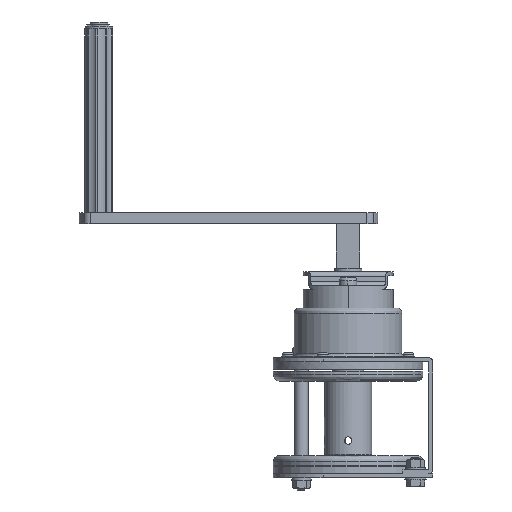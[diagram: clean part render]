
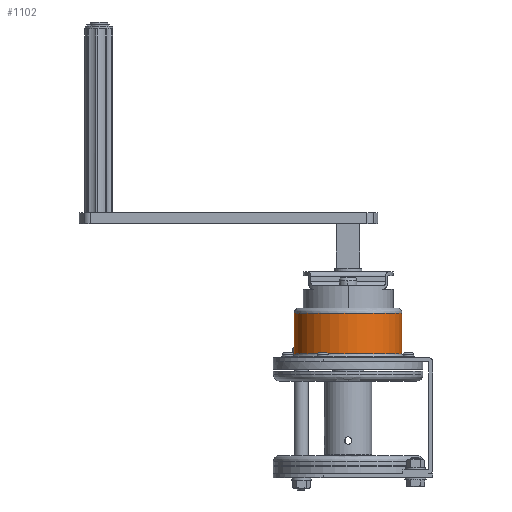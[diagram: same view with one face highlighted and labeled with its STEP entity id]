
A CAD part, left-side view. The second image highlights one B-rep face of the part: STEP entity #1102.
In plain terms, the highlighted cylindrical face has radius 43.2 mm (diameter 86.4 mm), a partial arc.
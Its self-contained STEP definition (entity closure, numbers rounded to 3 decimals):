
#1102=ADVANCED_FACE('',(#11459),#11458,.T.);
#11458=CYLINDRICAL_SURFACE('',#20934,43.2);
#11459=FACE_OUTER_BOUND('',#20935,.T.);
#20931=CARTESIAN_POINT('',(248.495,-52.675,-137.703));
#20932=DIRECTION('',(0.,0.,1.));
#20933=DIRECTION('',(0.,1.,0.));
#20934=AXIS2_PLACEMENT_3D('',#20931,#20932,#20933);
#20935=EDGE_LOOP('',(#28767,#28768,#28769,#28770));
#28767=ORIENTED_EDGE('',*,*,#33509,.T.);
#28768=ORIENTED_EDGE('',*,*,#31049,.F.);
#28769=ORIENTED_EDGE('',*,*,#31080,.F.);
#28770=ORIENTED_EDGE('',*,*,#31070,.T.);
#31049=EDGE_CURVE('',#36842,#36822,#36849,.T.);
#31070=EDGE_CURVE('',#36990,#36977,#36991,.T.);
#31080=EDGE_CURVE('',#36990,#36842,#37057,.T.);
#33509=EDGE_CURVE('',#36977,#36822,#53261,.T.);
#36822=VERTEX_POINT('',#59548);
#36842=VERTEX_POINT('',#59560);
#36849=LINE('',#59564,#59565);
#36977=VERTEX_POINT('',#59658);
#36990=VERTEX_POINT('',#59666);
#36991=LINE('',#59667,#59668);
#37057=CIRCLE('',#59745,43.2);
#53261=CIRCLE('',#69982,43.2);
#59548=CARTESIAN_POINT('',(248.495,-9.475,-141.703));
#59560=CARTESIAN_POINT('',(248.495,-9.475,-174.503));
#59564=CARTESIAN_POINT('',(248.495,-9.475,-174.503));
#59565=VECTOR('',#59566,32.8);
#59566=DIRECTION('',(0.,0.,1.));
#59658=CARTESIAN_POINT('',(248.495,-95.875,-141.703));
#59666=CARTESIAN_POINT('',(248.495,-95.875,-174.503));
#59667=CARTESIAN_POINT('',(248.495,-95.875,-174.503));
#59668=VECTOR('',#59669,32.8);
#59669=DIRECTION('',(0.,0.,1.));
#59742=CARTESIAN_POINT('',(248.495,-52.675,-174.503));
#59743=DIRECTION('',(0.,0.,-1.));
#59744=DIRECTION('',(0.,1.,0.));
#59745=AXIS2_PLACEMENT_3D('',#59742,#59743,#59744);
#69979=CARTESIAN_POINT('',(248.495,-52.675,-141.703));
#69980=DIRECTION('',(0.,0.,-1.));
#69981=DIRECTION('',(0.,1.,0.));
#69982=AXIS2_PLACEMENT_3D('',#69979,#69980,#69981);
